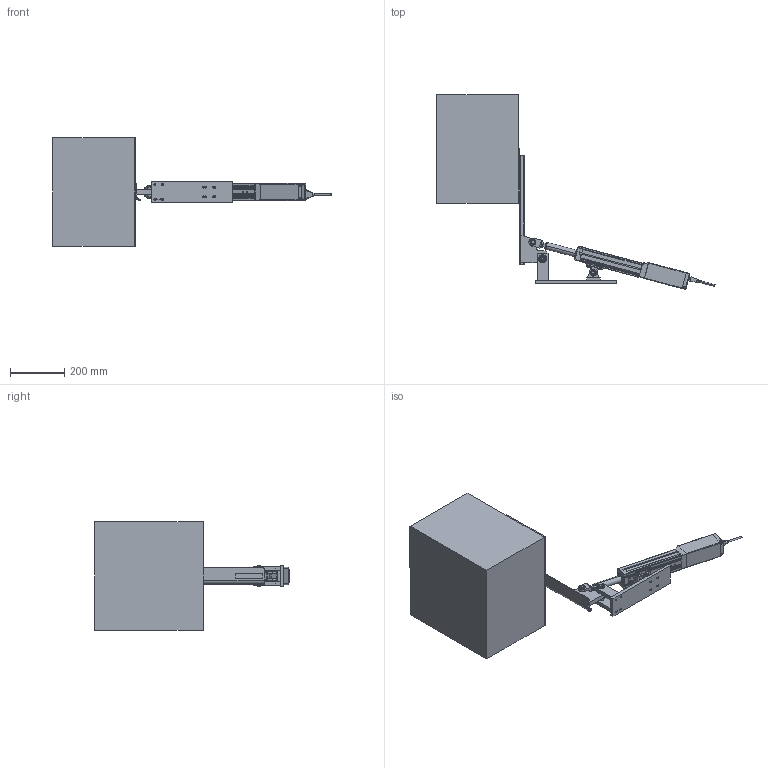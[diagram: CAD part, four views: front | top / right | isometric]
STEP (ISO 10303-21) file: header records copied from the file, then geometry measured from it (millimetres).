
FILE_DESCRIPTION (( 'STEP AP214' ), '1' );
FILE_NAME ('揺動機構ASSY.STEP', '2024-05-07T07:03:28', ( '' ), ( '' ), 'SwSTEP 2.0', 'SolidWorks 2023', '' );
FILE_SCHEMA (( 'AUTOMOTIVE_DESIGN' ));
Length unit declared in the file: millimetre
Products named in the file (18): 穴用止め輪; 揺動機構ASSY; RA6-cable-1; RR6-cyl_nut-1; RR6-knuckle joint-1; ﾌﾗｯﾌﾟ折り; ﾍﾞｱﾘﾝｸﾞﾊｳｼﾞﾝｸﾞ1; 樹脂すべり軸受け(簡易); RR6-clevis-1; 段ボール_閉じ; ﾍﾞｱﾘﾝｸﾞ; ﾍﾞｰｽﾌﾟﾚｰﾄ; 軸用止め輪; EC-RR6-115-ACR-B-1_body_rra-1; ﾍﾞｱﾘﾝｸﾞﾊｳｼﾞﾝｸﾞ2; ｸﾚﾋﾞｽﾎﾙﾀﾞｰ; RR6(115)-racylinder-1; EC-RR6M-115-3-ACR-B-NJ-QR-WA-(0)_100st
Assembly tree (20 placements, depth 3):
  揺動機構ASSY
    ﾌﾗｯﾌﾟ折り
    ﾍﾞｱﾘﾝｸﾞﾊｳｼﾞﾝｸﾞ1
    ﾍﾞｱﾘﾝｸﾞﾊｳｼﾞﾝｸﾞ2
    軸用止め輪  x2
    ﾍﾞｰｽﾌﾟﾚｰﾄ
    ｸﾚﾋﾞｽﾎﾙﾀﾞｰ
    ﾍﾞｱﾘﾝｸﾞ  x2
    穴用止め輪
    樹脂すべり軸受け(簡易)  x2
    段ボール_閉じ
    EC-RR6M-115-3-ACR-B-NJ-QR-WA-(0)_100st
      RR6-clevis-1
      RR6-knuckle joint-1
      RR6-cyl_nut-1
      RR6(115)-racylinder-1
      RA6-cable-1
      EC-RR6-115-ACR-B-1_body_rra-1
Bounding box: 1026.42 x 718.09 x 400 mm (x, y, z)
Volume: 5717138.7 mm3; surface area: 1804755.3 mm2
Topology: 36 solids, 36 shells, 1341 faces, 3451 edges, 2227 vertices
Faces by surface type: plane 690, cylinder 468, cone 95, torus 56, sphere 32
Entity records: 39547 total; most frequent: CARTESIAN_POINT 7346, DIRECTION 6763, ORIENTED_EDGE 6450, EDGE_CURVE 3225, AXIS2_PLACEMENT_3D 2372, VERTEX_POINT 2097, LINE 2019, VECTOR 2019
